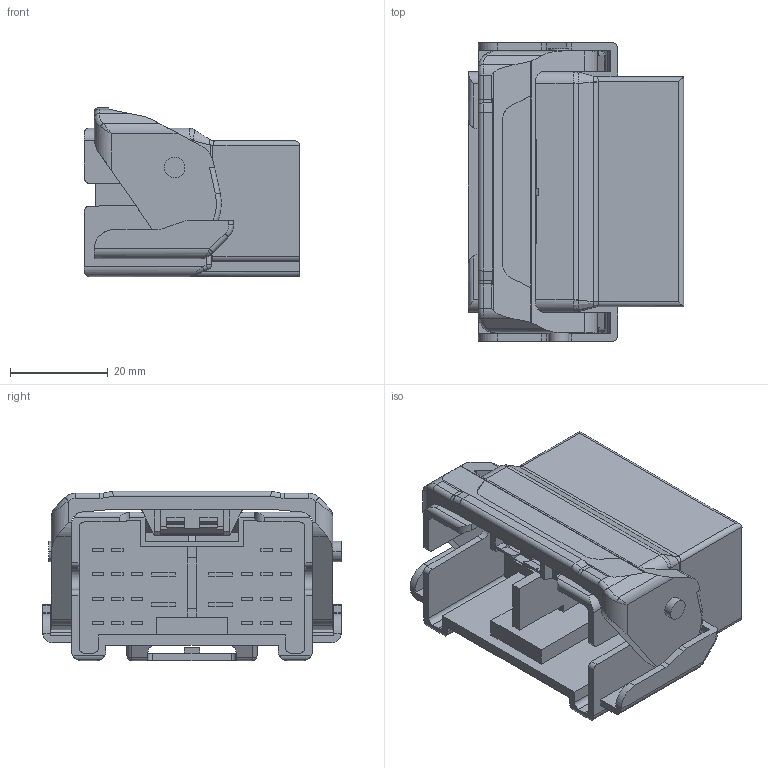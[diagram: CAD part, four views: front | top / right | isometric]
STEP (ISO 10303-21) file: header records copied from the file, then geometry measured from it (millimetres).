
FILE_DESCRIPTION(('CATIA V5 STEP','CAx-IF Rec.Pracs.--- Model Styling and Organization---1.4--- 2014-01-23'),'2;1');
FILE_NAME('N:\C-DAM_MyDesk\CONE1\COMMON\11_TOYOTA\カタログ\90980-11610_中野\6249_1254_close.stp','2023-09-11T10:55:07+00:00',('none'),('none'),'CATIA Version 5-6 Release 2017 SP5 HF58','CATIA V5 STEP AP214','none');
FILE_SCHEMA(('AUTOMOTIVE_DESIGN { 1 0 10303 214 1 1 1 1 }'));
Length unit declared in the file: millimetre
Products named in the file (1): 6249_1254_close
Bounding box: 44 x 61 x 34.6 mm (x, y, z)
Volume: 39610.3 mm3; surface area: 20512.7 mm2
Topology: 2 solids, 2 shells, 666 faces, 1758 edges, 1137 vertices
Faces by surface type: plane 474, cylinder 140, bspline 34, torus 16, sphere 2
Entity records: 20517 total; most frequent: CARTESIAN_POINT 5775, ORIENTED_EDGE 3496, DIRECTION 2214, EDGE_CURVE 1748, VECTOR 1359, LINE 1359, VERTEX_POINT 1137, EDGE_LOOP 727
